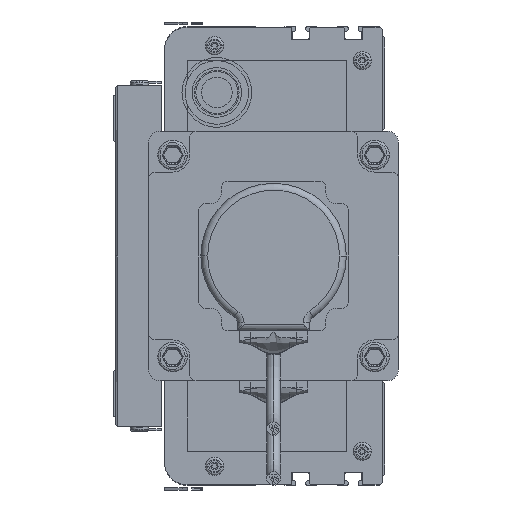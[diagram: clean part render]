
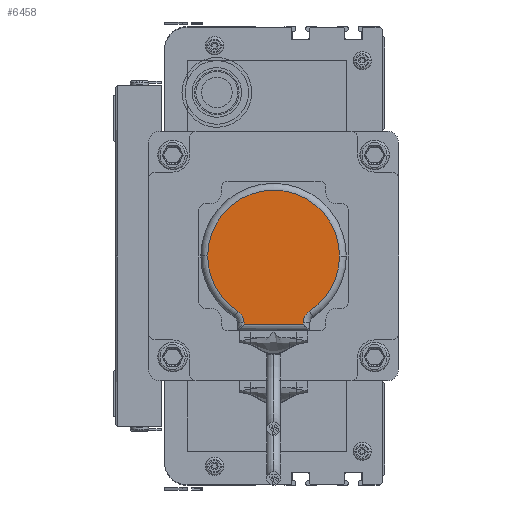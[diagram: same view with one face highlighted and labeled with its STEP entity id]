
A CAD part, left-side view. The second image highlights one B-rep face of the part: STEP entity #6458.
In plain terms, the highlighted planar face has unit normal (-1, 0, 0) as drawn and (0, 0, 1) by its records, which use the part's own axes.
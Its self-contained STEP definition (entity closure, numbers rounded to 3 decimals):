
#6140 = ORIENTED_EDGE ( 'NONE', *, *, #7121, .T. ) ;
#6167 = ORIENTED_EDGE ( 'NONE', *, *, #8617, .F. ) ;
#6297 = ORIENTED_EDGE ( 'NONE', *, *, #65627, .T. ) ;
#6458 = ADVANCED_FACE ( 'NONE', ( #54747 ), #54760, .T. ) ;
#6464 = EDGE_CURVE ( 'NONE', #8309, #7461, #54769, .T. ) ;
#7121 = EDGE_CURVE ( 'NONE', #7936, #8402, #107011, .T. ) ;
#7450 = EDGE_CURVE ( 'NONE', #8405, #7936, #108249, .T. ) ;
#7461 = VERTEX_POINT ( 'NONE', #108358 ) ;
#7889 = VERTEX_POINT ( 'NONE', #118240 ) ;
#7925 = EDGE_LOOP ( 'NONE', ( #6167, #145367, #6297, #145378, #145581, #145463, #145379, #6140 ) ) ;
#7936 = VERTEX_POINT ( 'NONE', #118365 ) ;
#8309 = VERTEX_POINT ( 'NONE', #101873 ) ;
#8402 = VERTEX_POINT ( 'NONE', #101903 ) ;
#8405 = VERTEX_POINT ( 'NONE', #101896 ) ;
#8463 = EDGE_CURVE ( 'NONE', #8309, #8405, #101891, .T. ) ;
#8617 = EDGE_CURVE ( 'NONE', #65551, #8402, #101939, .T. ) ;
#54468 = AXIS2_PLACEMENT_3D ( 'NONE', #54739, #54562, #54733 ) ;
#54562 = DIRECTION ( 'NONE',  ( 0., 0., 1. ) ) ;
#54718 = DIRECTION ( 'NONE',  ( 1., 0., 0. ) ) ;
#54720 = DIRECTION ( 'NONE',  ( 0., 0., 1. ) ) ;
#54722 = CARTESIAN_POINT ( 'NONE',  ( 52., 62.394, 25. ) ) ;
#54733 = DIRECTION ( 'NONE',  ( 1., 0., 0. ) ) ;
#54735 = AXIS2_PLACEMENT_3D ( 'NONE', #54722, #54720, #54718 ) ;
#54739 = CARTESIAN_POINT ( 'NONE',  ( 33., 33., 25. ) ) ;
#54747 = FACE_OUTER_BOUND ( 'NONE', #7925, .T. ) ;
#54760 = PLANE ( 'NONE',  #54468 ) ;
#54769 = CIRCLE ( 'NONE', #54735, 6. ) ;
#65551 = VERTEX_POINT ( 'NONE', #135470 ) ;
#65567 = EDGE_CURVE ( 'NONE', #65551, #7889, #135633, .T. ) ;
#65583 = VERTEX_POINT ( 'NONE', #135654 ) ;
#65627 = EDGE_CURVE ( 'NONE', #7889, #65583, #135935, .T. ) ;
#101873 = CARTESIAN_POINT ( 'NONE',  ( 46., 62.394, 25. ) ) ;
#101890 = CARTESIAN_POINT ( 'NONE',  ( 46., 33., 25. ) ) ;
#101891 = LINE ( 'NONE', #101890, #101956 ) ;
#101896 = CARTESIAN_POINT ( 'NONE',  ( 46., 63., 25. ) ) ;
#101903 = CARTESIAN_POINT ( 'NONE',  ( 20., 62.394, 25. ) ) ;
#101919 = DIRECTION ( 'NONE',  ( 1., 0., 0. ) ) ;
#101920 = DIRECTION ( 'NONE',  ( 0., 0., 1. ) ) ;
#101939 = CIRCLE ( 'NONE', #101943, 6. ) ;
#101942 = CARTESIAN_POINT ( 'NONE',  ( 14., 62.394, 25. ) ) ;
#101943 = AXIS2_PLACEMENT_3D ( 'NONE', #101942, #101920, #101919 ) ;
#101955 = DIRECTION ( 'NONE',  ( 0., 1., 0. ) ) ;
#101956 = VECTOR ( 'NONE', #101955, 1000. ) ;
#107011 = LINE ( 'NONE', #107107, #107094 ) ;
#107094 = VECTOR ( 'NONE', #107105, 1000. ) ;
#107105 = DIRECTION ( 'NONE',  ( 0., -1., 0. ) ) ;
#107107 = CARTESIAN_POINT ( 'NONE',  ( 20., 33., 25. ) ) ;
#108246 = DIRECTION ( 'NONE',  ( -1., 0., 0. ) ) ;
#108247 = VECTOR ( 'NONE', #108246, 1000. ) ;
#108248 = CARTESIAN_POINT ( 'NONE',  ( 17.5, 63., 25. ) ) ;
#108249 = LINE ( 'NONE', #108248, #108247 ) ;
#108358 = CARTESIAN_POINT ( 'NONE',  ( 48.743, 57.355, 25. ) ) ;
#118240 = CARTESIAN_POINT ( 'NONE',  ( 4., 33., 25. ) ) ;
#118365 = CARTESIAN_POINT ( 'NONE',  ( 20., 63., 25. ) ) ;
#135470 = CARTESIAN_POINT ( 'NONE',  ( 17.257, 57.355, 25. ) ) ;
#135633 = CIRCLE ( 'NONE', #135641, 29. ) ;
#135641 = AXIS2_PLACEMENT_3D ( 'NONE', #135667, #135666, #135665 ) ;
#135654 = CARTESIAN_POINT ( 'NONE',  ( 62., 33., 25. ) ) ;
#135665 = DIRECTION ( 'NONE',  ( 1., 0., 0. ) ) ;
#135666 = DIRECTION ( 'NONE',  ( 0., 0., 1. ) ) ;
#135667 = CARTESIAN_POINT ( 'NONE',  ( 33., 33., 25. ) ) ;
#135810 = CARTESIAN_POINT ( 'NONE',  ( 33., 33., 25. ) ) ;
#135876 = AXIS2_PLACEMENT_3D ( 'NONE', #135810, #135921, #135920 ) ;
#135920 = DIRECTION ( 'NONE',  ( 1., 0., 0. ) ) ;
#135921 = DIRECTION ( 'NONE',  ( 0., 0., 1. ) ) ;
#135935 = CIRCLE ( 'NONE', #135876, 29. ) ;
#145367 = ORIENTED_EDGE ( 'NONE', *, *, #65567, .T. ) ;
#145378 = ORIENTED_EDGE ( 'NONE', *, *, #145435, .T. ) ;
#145379 = ORIENTED_EDGE ( 'NONE', *, *, #7450, .T. ) ;
#145435 = EDGE_CURVE ( 'NONE', #65583, #7461, #150455, .T. ) ;
#145463 = ORIENTED_EDGE ( 'NONE', *, *, #8463, .T. ) ;
#145581 = ORIENTED_EDGE ( 'NONE', *, *, #6464, .F. ) ;
#150450 = DIRECTION ( 'NONE',  ( 1., 0., 0. ) ) ;
#150451 = DIRECTION ( 'NONE',  ( 0., 0., 1. ) ) ;
#150452 = AXIS2_PLACEMENT_3D ( 'NONE', #150512, #150451, #150450 ) ;
#150455 = CIRCLE ( 'NONE', #150452, 29. ) ;
#150512 = CARTESIAN_POINT ( 'NONE',  ( 33., 33., 25. ) ) ;
